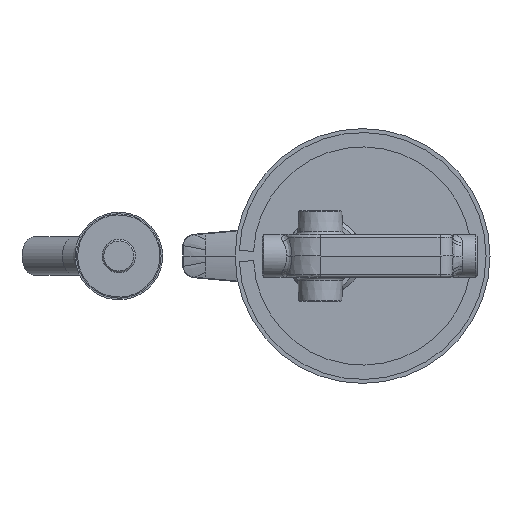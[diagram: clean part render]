
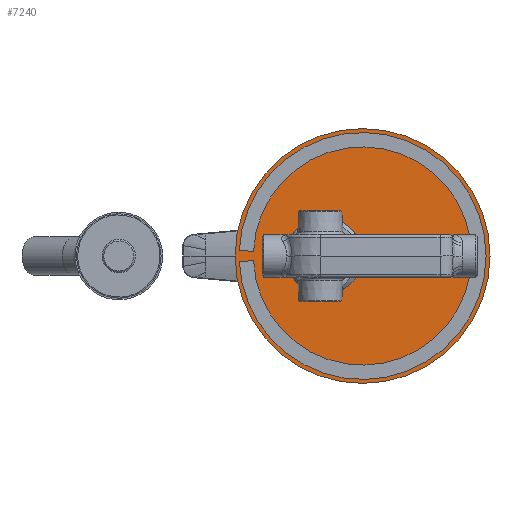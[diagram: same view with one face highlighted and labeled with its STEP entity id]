
A CAD part, front view. The second image highlights one B-rep face of the part: STEP entity #7240.
In plain terms, the highlighted planar face has unit normal (0, -1, 0).
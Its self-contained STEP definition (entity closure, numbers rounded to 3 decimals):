
#655=LINE('',#10362,#1032);
#662=LINE('',#10383,#1039);
#1032=VECTOR('',#8467,10.);
#1039=VECTOR('',#8490,10.);
#1440=FACE_BOUND('',#1914,.T.);
#1441=FACE_BOUND('',#1915,.T.);
#1442=FACE_BOUND('',#1916,.T.);
#1483=FACE_OUTER_BOUND('',#1913,.T.);
#1913=EDGE_LOOP('',(#4583,#4584));
#1914=EDGE_LOOP('',(#4585,#4586,#4587,#4588));
#1915=EDGE_LOOP('',(#4589));
#1916=EDGE_LOOP('',(#4590));
#2372=CIRCLE('',#7719,77.5);
#2374=CIRCLE('',#7722,68.5);
#2376=CIRCLE('',#7727,80.);
#2377=CIRCLE('',#7728,80.);
#2378=CIRCLE('',#7729,21.);
#2379=CIRCLE('',#7730,10.);
#2731=VERTEX_POINT('',#10360);
#2732=VERTEX_POINT('',#10361);
#2735=VERTEX_POINT('',#10369);
#2737=VERTEX_POINT('',#10375);
#2739=VERTEX_POINT('',#10385);
#2740=VERTEX_POINT('',#10386);
#2741=VERTEX_POINT('',#10389);
#2742=VERTEX_POINT('',#10391);
#3429=EDGE_CURVE('',#2731,#2732,#655,.T.);
#3433=EDGE_CURVE('',#2735,#2731,#2372,.T.);
#3436=EDGE_CURVE('',#2732,#2737,#2374,.T.);
#3440=EDGE_CURVE('',#2737,#2735,#662,.T.);
#3441=EDGE_CURVE('',#2739,#2740,#2376,.T.);
#3442=EDGE_CURVE('',#2740,#2739,#2377,.T.);
#3443=EDGE_CURVE('',#2741,#2741,#2378,.T.);
#3444=EDGE_CURVE('',#2742,#2742,#2379,.T.);
#4583=ORIENTED_EDGE('',*,*,#3441,.F.);
#4584=ORIENTED_EDGE('',*,*,#3442,.F.);
#4585=ORIENTED_EDGE('',*,*,#3433,.T.);
#4586=ORIENTED_EDGE('',*,*,#3429,.T.);
#4587=ORIENTED_EDGE('',*,*,#3436,.T.);
#4588=ORIENTED_EDGE('',*,*,#3440,.T.);
#4589=ORIENTED_EDGE('',*,*,#3443,.F.);
#4590=ORIENTED_EDGE('',*,*,#3444,.F.);
#6673=PLANE('',#7726);
#7240=ADVANCED_FACE('',(#1483,#1440,#1441,#1442),#6673,.F.);
#7719=AXIS2_PLACEMENT_3D('',#10370,#8473,#8474);
#7722=AXIS2_PLACEMENT_3D('',#10376,#8480,#8481);
#7726=AXIS2_PLACEMENT_3D('',#10384,#8491,#8492);
#7727=AXIS2_PLACEMENT_3D('',#10387,#8493,#8494);
#7728=AXIS2_PLACEMENT_3D('',#10388,#8495,#8496);
#7729=AXIS2_PLACEMENT_3D('',#10390,#8497,#8498);
#7730=AXIS2_PLACEMENT_3D('',#10392,#8499,#8500);
#8467=DIRECTION('',(0.999,0.,0.044));
#8473=DIRECTION('center_axis',(0.,1.,0.));
#8474=DIRECTION('ref_axis',(-0.999,0.,-0.044));
#8480=DIRECTION('center_axis',(0.,-1.,0.));
#8481=DIRECTION('ref_axis',(-0.999,0.,-0.044));
#8490=DIRECTION('',(-0.999,0.,0.044));
#8491=DIRECTION('center_axis',(0.,1.,0.));
#8492=DIRECTION('ref_axis',(1.,0.,0.));
#8493=DIRECTION('center_axis',(0.,1.,0.));
#8494=DIRECTION('ref_axis',(1.,0.,0.));
#8495=DIRECTION('center_axis',(0.,1.,0.));
#8496=DIRECTION('ref_axis',(1.,0.,0.));
#8497=DIRECTION('center_axis',(0.,-1.,0.));
#8498=DIRECTION('ref_axis',(-0.214,0.,0.977));
#8499=DIRECTION('center_axis',(0.,-1.,0.));
#8500=DIRECTION('ref_axis',(0.,0.,
-1.));
#10360=CARTESIAN_POINT('',(-53.426,32.8,-3.381));
#10361=CARTESIAN_POINT('',(-44.435,32.8,-2.988));
#10362=CARTESIAN_POINT('',(-52.389,32.8,-3.335));
#10369=CARTESIAN_POINT('',(-53.426,32.8,3.381));
#10370=CARTESIAN_POINT('Origin',(24.,32.8,0.));
#10375=CARTESIAN_POINT('',(-44.435,32.8,2.988));
#10376=CARTESIAN_POINT('Origin',(24.,32.8,0.));
#10383=CARTESIAN_POINT('',(-52.389,32.8,3.335));
#10384=CARTESIAN_POINT('Origin',(-56.,32.8,0.));
#10385=CARTESIAN_POINT('',(104.,32.8,0.));
#10386=CARTESIAN_POINT('',(-56.,32.8,0.));
#10387=CARTESIAN_POINT('Origin',(24.,32.8,0.));
#10388=CARTESIAN_POINT('Origin',(24.,32.8,0.));
#10389=CARTESIAN_POINT('',(4.499,32.8,-20.512));
#10390=CARTESIAN_POINT('Origin',(0.,32.8,
0.));
#10391=CARTESIAN_POINT('',(60.,32.8,10.));
#10392=CARTESIAN_POINT('Origin',(60.,32.8,0.));
